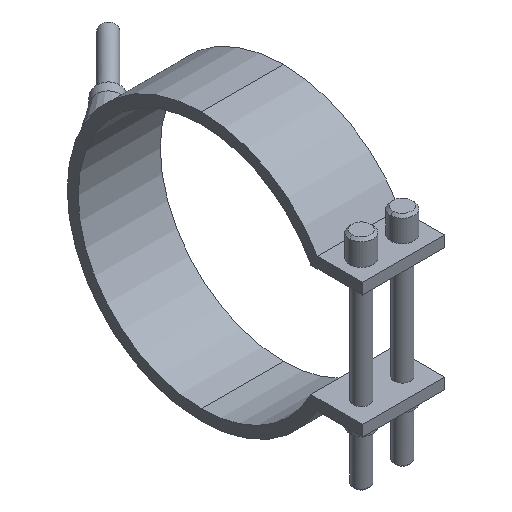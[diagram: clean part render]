
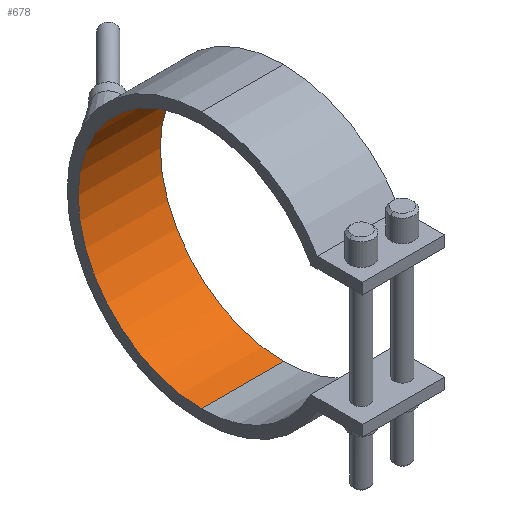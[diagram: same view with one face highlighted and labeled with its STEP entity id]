
A CAD part, isometric view. The second image highlights one B-rep face of the part: STEP entity #678.
In plain terms, the highlighted cylindrical face has radius 45 mm (diameter 90 mm), a partial arc.
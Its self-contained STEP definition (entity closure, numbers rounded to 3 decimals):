
#348=CARTESIAN_POINT('Vertex',(15.,0.,45.)) ;
#353=CARTESIAN_POINT('Axis2P3D Location',(15.,0.,0.)) ;
#357=CARTESIAN_POINT('Vertex',(15.,0.,-45.)) ;
#464=CARTESIAN_POINT('Vertex',(-15.,0.,-45.)) ;
#467=CARTESIAN_POINT('Axis2P3D Location',(-15.,0.,0.)) ;
#471=CARTESIAN_POINT('Vertex',(-15.,0.,45.)) ;
#650=CARTESIAN_POINT('Line Origine',(15.,0.,45.)) ;
#662=CARTESIAN_POINT('Axis2P3D Location',(15.,0.,0.)) ;
#667=CARTESIAN_POINT('Line Origine',(15.,0.,-45.)) ;
#354=DIRECTION('Axis2P3D Direction',(1.,0.,0.)) ;
#468=DIRECTION('Axis2P3D Direction',(1.,0.,0.)) ;
#651=DIRECTION('Vector Direction',(1.,0.,0.)) ;
#663=DIRECTION('Axis2P3D Direction',(1.,0.,-0.)) ;
#664=DIRECTION('Axis2P3D XDirection',(0.,0.,-1.)) ;
#668=DIRECTION('Vector Direction',(1.,0.,0.)) ;
#355=AXIS2_PLACEMENT_3D('Circle Axis2P3D',#353,#354,$) ;
#469=AXIS2_PLACEMENT_3D('Circle Axis2P3D',#467,#468,$) ;
#665=AXIS2_PLACEMENT_3D('Cylinder Axis2P3D',#662,#663,#664) ;
#673=ORIENTED_EDGE('',*,*,#359,.T.) ;
#674=ORIENTED_EDGE('',*,*,#654,.T.) ;
#675=ORIENTED_EDGE('',*,*,#473,.F.) ;
#676=ORIENTED_EDGE('',*,*,#671,.T.) ;
#652=VECTOR('Line Direction',#651,1.) ;
#669=VECTOR('Line Direction',#668,1.) ;
#678=ADVANCED_FACE('29090030',(#677),#666,.F.) ;
#356=CIRCLE('generated circle',#355,45.) ;
#470=CIRCLE('generated circle',#469,45.) ;
#666=CYLINDRICAL_SURFACE('generated cylinder',#665,45.) ;
#359=EDGE_CURVE('',#358,#349,#356,.T.) ;
#473=EDGE_CURVE('',#465,#472,#470,.T.) ;
#654=EDGE_CURVE('',#349,#472,#653,.F.) ;
#671=EDGE_CURVE('',#465,#358,#670,.T.) ;
#672=EDGE_LOOP('',(#673,#674,#675,#676)) ;
#677=FACE_OUTER_BOUND('',#672,.T.) ;
#653=LINE('Line',#650,#652) ;
#670=LINE('Line',#667,#669) ;
#349=VERTEX_POINT('',#348) ;
#358=VERTEX_POINT('',#357) ;
#465=VERTEX_POINT('',#464) ;
#472=VERTEX_POINT('',#471) ;
